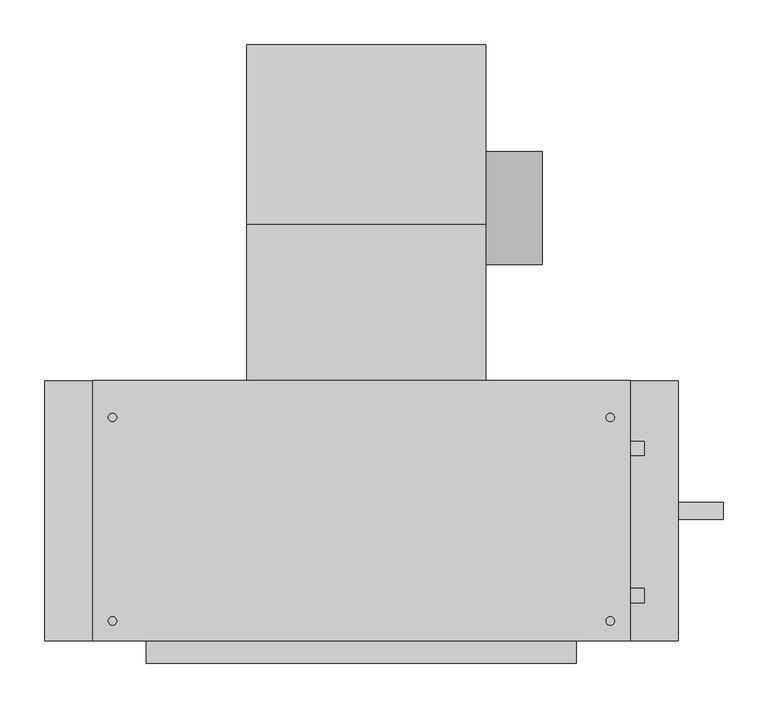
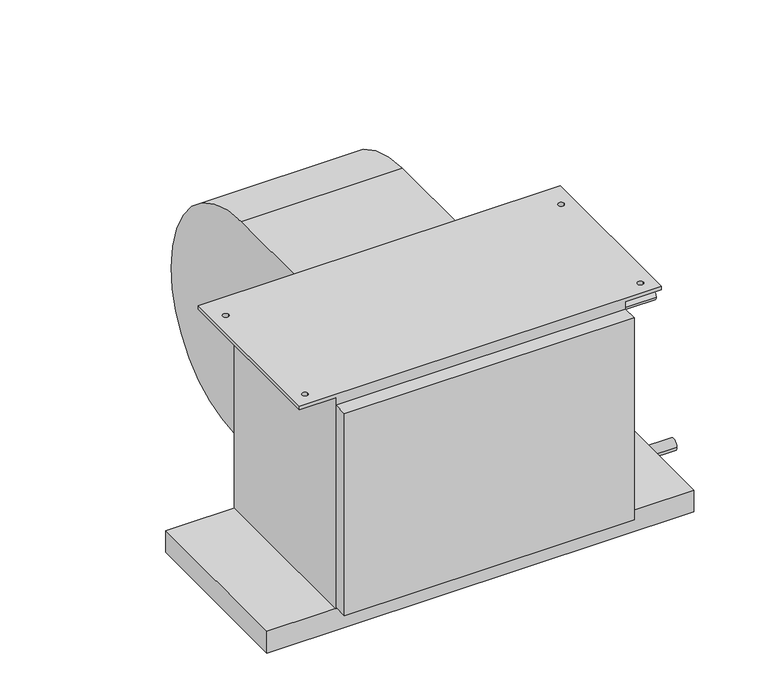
"""IFC4 building model written with IfcOpenShell, lengths in millimetres: proxy geometry, Concealed_High_Capacity_Horizontal_Fan_Coil_Unit_-_42DAA_-_CARRIER_-_2-Pipe_Cool-EHeat_RH_2022 : Size 08 - 277v/60Hz/1Ph - 6 Row 6.0kW."""

from ifc_helpers import new_model, si_unit, point, frame, frame_2d, origin, place, context, project, spatial, polyline, circle_curve, trimmed, segment, composite_curve, outline, extrude, source, transform, mapped, element, save
from ifc_brep_helpers import plane_surface, cylinder_surface, revolved_surface, advanced_brep


def mechanical_equipment_7bd75dd6(model_context):
    return source(origin(), model_context, "Body", "SolidModel", [
        extrude(outline(composite_curve([segment(trimmed(circle_curve(frame_2d((102.0007598, -206.8897468)), 63.5), [point((165.5007598, -206.8897468))], [point((38.5007598, -206.8897468))], False, "CARTESIAN"), True, "CONTINUOUS"), segment(trimmed(circle_curve(frame_2d((102.0007598, -206.8897468)), 63.5), [point((38.5007598, -206.8897468))], [point((165.5007598, -206.8897468))], False, "CARTESIAN"), True, "CONTINUOUS")], self_intersect=False)), frame((292.1, 0.0, 0.0), z_axis=(1.0, 0.0, 0.0), x_axis=(0.0, 1.0, 0.0)), (0.0, 0.0, 1.0), 63.5),
        advanced_brep(
        [(23.876, 285.5155957, -222.029602), (23.876, 104.6226, -403.64664), (23.876, -50.9016, -277.10638), (23.876, -92.075, -277.10638), (23.876, -92.075, -19.05), (23.876, 83.0080093, -19.05), (292.1, 285.5155957, -222.029602), (292.1, 83.0080093, -19.05), (292.1, -92.075, -19.05), (292.1, -92.075, -277.10638), (292.1, -50.9016, -277.10638), (292.1, 104.622599, -403.6457839)],
        [
            (0, 1, circle_curve(frame((23.876, 104.44226, -222.57258), z_axis=(-1.0, 0.0, 0.0), x_axis=(0.0, -1.0, 0.0)), 181.0741498)),
            (1, 2, circle_curve(frame((23.876, 104.44226, -245.02364), z_axis=(-1.0, 0.0, 0.0), x_axis=(0.0, -1.0, 0.0)), 158.6222464)),
            (2, 3),
            (3, 4),
            (4, 5),
            (5, 0, circle_curve(frame((23.876, 81.9912, -222.57258), z_axis=(-1.0, 0.0, 0.0), x_axis=(0.0, -1.0, 0.0)), 203.52512)),
            (6, 7, circle_curve(frame((292.1, 81.9912, -222.57258), z_axis=(1.0, 0.0, 0.0), x_axis=(0.0, -1.0, 0.0)), 203.52512)),
            (7, 8),
            (8, 9),
            (9, 10),
            (10, 11, circle_curve(frame((292.1, 104.44226, -245.02364), z_axis=(1.0, 0.0, 0.0), x_axis=(0.0, -1.0, 0.0)), 158.6222464)),
            (11, 6, circle_curve(frame((292.1, 104.44226, -222.57258), z_axis=(1.0, 0.0, 0.0), x_axis=(0.0, -1.0, 0.0)), 181.0741498)),
            (0, 6),
            (11, 1),
            (10, 2),
            (9, 3),
            (8, 4),
            (7, 5),
        ],
        [
            plane_surface(frame((23.876, -76.6318898, -222.57258), z_axis=(-1.0, 0.0, 0.0), x_axis=(0.0, 0.0, 1.0))),
            plane_surface(frame((292.1, -76.6318898, -222.57258), z_axis=(1.0, 0.0, 0.0), x_axis=(0.0, 0.0, -1.0))),
            cylinder_surface(frame((292.1, 104.44226, -222.57258), z_axis=(-1.0, 0.0, 0.0), x_axis=(0.0, -1.0, 0.0)), 181.0741498),
            cylinder_surface(frame((292.1, 104.44226, -245.02364), z_axis=(-1.0, 0.0, 0.0), x_axis=(0.0, -1.0, 0.0)), 158.6222464),
            plane_surface(frame((23.876, -50.9016, -277.10638), z_axis=(0.0, 0.0, -1.0), x_axis=(1.0, 0.0, 0.0))),
            plane_surface(frame((23.876, -92.075, -277.10638), z_axis=(0.0, -1.0, 0.0), x_axis=(1.0, 0.0, 0.0))),
            plane_surface(frame((23.876, -92.075, -19.05), z_axis=(0.0, 0.0, 1.0), x_axis=(1.0, 0.0, 0.0))),
            cylinder_surface(frame((292.1, 81.9912, -222.57258), z_axis=(-1.0, 0.0, 0.0), x_axis=(0.0, -1.0, 0.0)), 203.52512),
        ],
        [
            (0, [[1, 2, 3, 4, 5, 6]]),
            (1, [[7, 8, 9, 10, 11, 12]]),
            (2, [[-1, 13, -12, 14]]),
            (3, [[-2, -14, -11, 15]]),
            (4, [[-3, -15, -10, 16]]),
            (5, [[-4, -16, -9, 17]]),
            (6, [[-5, -17, -8, 18]]),
            (7, [[-6, -18, -7, -13]]),
        ],
    ),
        advanced_brep(
        [(393.7, -92.075, -377.825), (393.7, -384.175, -377.825), (-88.9, -384.175, -377.825), (-88.9, -92.075, -377.825), (-88.9, -384.175, -6.35), (-88.9, -92.075, -6.35), (393.7, -92.075, -6.35), (393.7, -384.175, -6.35), (454.025, -92.075, -6.35), (454.025, -384.175, -6.35), (427.0375, -133.35, -6.35), (436.5625, -133.35, -6.35), (427.0375, -361.95, -6.35), (436.5625, -361.95, -6.35), (-149.225, -92.075, -6.35), (-149.225, -384.175, -6.35), (-131.7625, -133.35, -6.35), (-122.2375, -133.35, -6.35), (-131.7625, -361.95, -6.35), (-122.2375, -361.95, -6.35), (454.025, -384.175, 0.0), (454.025, -92.075, 0.0), (-149.225, -92.075, 0.0), (-149.225, -384.175, 0.0), (-122.2375, -133.35, 0.0), (-131.7625, -133.35, 0.0), (-122.2375, -361.95, 0.0), (-131.7625, -361.95, 0.0), (436.5625, -133.35, 0.0), (427.0375, -133.35, 0.0), (436.5625, -361.95, 0.0), (427.0375, -361.95, 0.0)],
        [
            (0, 1),
            (1, 2),
            (2, 3),
            (3, 0),
            (2, 4),
            (4, 5),
            (5, 3),
            (0, 6),
            (6, 7),
            (7, 1),
            (8, 9),
            (9, 7),
            (6, 8),
            (10, 11, circle_curve(frame((431.8, -133.35, -6.35), z_axis=(0.0, 0.0, 1.0), x_axis=(1.0, 0.0, 0.0)), 4.7625)),
            (11, 10, circle_curve(frame((431.8, -133.35, -6.35), z_axis=(0.0, 0.0, 1.0), x_axis=(1.0, 0.0, 0.0)), 4.7625)),
            (12, 13, circle_curve(frame((431.8, -361.95, -6.35), z_axis=(0.0, 0.0, 1.0), x_axis=(1.0, 0.0, 0.0)), 4.7625)),
            (13, 12, circle_curve(frame((431.8, -361.95, -6.35), z_axis=(0.0, 0.0, 1.0), x_axis=(1.0, 0.0, 0.0)), 4.7625)),
            (14, 5),
            (4, 15),
            (15, 14),
            (16, 17, circle_curve(frame((-127.0, -133.35, -6.35), z_axis=(0.0, 0.0, 1.0), x_axis=(1.0, 0.0, 0.0)), 4.7625)),
            (17, 16, circle_curve(frame((-127.0, -133.35, -6.35), z_axis=(0.0, 0.0, 1.0), x_axis=(1.0, 0.0, 0.0)), 4.7625)),
            (18, 19, circle_curve(frame((-127.0, -361.95, -6.35), z_axis=(0.0, 0.0, 1.0), x_axis=(1.0, 0.0, 0.0)), 4.7625)),
            (19, 18, circle_curve(frame((-127.0, -361.95, -6.35), z_axis=(0.0, 0.0, 1.0), x_axis=(1.0, 0.0, 0.0)), 4.7625)),
            (20, 21),
            (21, 22),
            (22, 23),
            (23, 20),
            (24, 25, circle_curve(frame((-127.0, -133.35, 0.0), z_axis=(0.0, 0.0, -1.0), x_axis=(1.0, 0.0, 0.0)), 4.7625)),
            (25, 24, circle_curve(frame((-127.0, -133.35, 0.0), z_axis=(0.0, 0.0, -1.0), x_axis=(1.0, 0.0, 0.0)), 4.7625)),
            (26, 27, circle_curve(frame((-127.0, -361.95, 0.0), z_axis=(0.0, 0.0, -1.0), x_axis=(1.0, 0.0, 0.0)), 4.7625)),
            (27, 26, circle_curve(frame((-127.0, -361.95, 0.0), z_axis=(0.0, 0.0, -1.0), x_axis=(1.0, 0.0, 0.0)), 4.7625)),
            (28, 29, circle_curve(frame((431.8, -133.35, 0.0), z_axis=(0.0, 0.0, -1.0), x_axis=(1.0, 0.0, 0.0)), 4.7625)),
            (29, 28, circle_curve(frame((431.8, -133.35, 0.0), z_axis=(0.0, 0.0, -1.0), x_axis=(1.0, 0.0, 0.0)), 4.7625)),
            (30, 31, circle_curve(frame((431.8, -361.95, 0.0), z_axis=(0.0, 0.0, -1.0), x_axis=(1.0, 0.0, 0.0)), 4.7625)),
            (31, 30, circle_curve(frame((431.8, -361.95, 0.0), z_axis=(0.0, 0.0, -1.0), x_axis=(1.0, 0.0, 0.0)), 4.7625)),
            (14, 22),
            (21, 8),
            (9, 20),
            (23, 15),
            (24, 17),
            (16, 25),
            (26, 19),
            (18, 27),
            (28, 11),
            (10, 29),
            (30, 13),
            (12, 31),
        ],
        [
            plane_surface(frame((-88.9, -92.075, -377.825), z_axis=(0.0, 0.0, -1.0), x_axis=(1.0, 0.0, 0.0))),
            plane_surface(frame((-88.9, -92.075, 0.0), z_axis=(-1.0, 0.0, 0.0), x_axis=(0.0, 0.0, -1.0))),
            plane_surface(frame((393.7, -384.175, 0.0), z_axis=(1.0, 0.0, 0.0), x_axis=(0.0, 0.0, -1.0))),
            plane_surface(frame((393.7, -92.075, -6.35), z_axis=(0.0, 0.0, -1.0), x_axis=(1.0, 0.0, 0.0))),
            plane_surface(frame((393.7, -92.075, 0.0), z_axis=(0.0, 0.0, 1.0), x_axis=(-1.0, 0.0, 0.0))),
            plane_surface(frame((454.025, -92.075, 0.0), z_axis=(0.0, 1.0, 0.0), x_axis=(0.0, 0.0, -1.0))),
            plane_surface(frame((393.7, -384.175, 0.0), z_axis=(0.0, -1.0, 0.0), x_axis=(0.0, 0.0, -1.0))),
            plane_surface(frame((454.025, -384.175, 0.0), z_axis=(1.0, 0.0, 0.0), x_axis=(0.0, 0.0, -1.0))),
            plane_surface(frame((-149.225, -92.075, 0.0), z_axis=(-1.0, 0.0, 0.0), x_axis=(0.0, 0.0, -1.0))),
            revolved_surface(polyline([(-122.2375, -133.35, 0.0), (-122.2375, -133.35, -6.35)]), (-127.0, -133.35, -6.35), (0.0, 0.0, 1.0)),
            revolved_surface(polyline([(-122.2375, -361.95, 0.0), (-122.2375, -361.95, -6.35)]), (-127.0, -361.95, 0.0), (0.0, 0.0, 1.0)),
            revolved_surface(polyline([(436.5625, -133.35, 0.0), (436.5625, -133.35, -6.35)]), (431.8, -133.35, 0.0), (0.0, 0.0, 1.0)),
            revolved_surface(polyline([(436.5625, -361.95, 0.0), (436.5625, -361.95, -6.35)]), (431.8, -361.95, 0.0), (0.0, 0.0, 1.0)),
        ],
        [
            (0, [[1, 2, 3, 4]]),
            (1, [[-3, 5, 6, 7]]),
            (2, [[-1, 8, 9, 10]]),
            (3, [[11, 12, -9, 13], [14, 15], [16, 17]]),
            (3, [[18, -6, 19, 20], [21, 22], [23, 24]]),
            (4, [[25, 26, 27, 28], [29, 30], [31, 32], [33, 34], [35, 36]]),
            (5, [[-13, -8, -4, -7, -18, 37, -26, 38]]),
            (6, [[-12, 39, -28, 40, -19, -5, -2, -10]]),
            (7, [[-11, -38, -25, -39]]),
            (8, [[-20, -40, -27, -37]]),
            (9, [[41, -21, 42, -29]]),
            (9, [[-41, -30, -42, -22]]),
            (10, [[43, -23, 44, -31]]),
            (10, [[-43, -32, -44, -24]]),
            (11, [[45, -14, 46, -33]]),
            (11, [[-45, -34, -46, -15]]),
            (12, [[47, -16, 48, -35]]),
            (12, [[-47, -36, -48, -17]]),
        ],
    ),
        extrude(outline(composite_curve([segment(trimmed(circle_curve(frame_2d((-238.125, -403.225)), 9.525), [point((-228.6, -403.225))], [point((-247.65, -403.225))], False, "CARTESIAN"), True, "CONTINUOUS"), segment(trimmed(circle_curve(frame_2d((-238.125, -403.225)), 9.525), [point((-247.65, -403.225))], [point((-228.6, -403.225))], False, "CARTESIAN"), True, "CONTINUOUS")], self_intersect=False)), frame((508.0, 0.0, 0.0), z_axis=(1.0, 0.0, 0.0), x_axis=(0.0, 1.0, 0.0)), (0.0, 0.0, 1.0), 50.8),
        extrude(outline(composite_curve([segment(trimmed(circle_curve(frame_2d((-333.375, -50.8)), 7.9375), [point((-325.4375, -50.8))], [point((-341.3125, -50.8))], False, "CARTESIAN"), True, "CONTINUOUS"), segment(trimmed(circle_curve(frame_2d((-333.375, -50.8)), 7.9375), [point((-341.3125, -50.8))], [point((-325.4375, -50.8))], False, "CARTESIAN"), True, "CONTINUOUS")], self_intersect=False)), frame((393.7, 0.0, 0.0), z_axis=(1.0, 0.0, 0.0), x_axis=(0.0, 1.0, 0.0)), (0.0, 0.0, 1.0), 76.2),
        extrude(outline(composite_curve([segment(trimmed(circle_curve(frame_2d((-168.275, -327.025)), 7.9375), [point((-160.3375, -327.025))], [point((-176.2125, -327.025))], False, "CARTESIAN"), True, "CONTINUOUS"), segment(trimmed(circle_curve(frame_2d((-168.275, -327.025)), 7.9375), [point((-176.2125, -327.025))], [point((-160.3375, -327.025))], False, "CARTESIAN"), True, "CONTINUOUS")], self_intersect=False)), frame((393.7, 0.0, 0.0), z_axis=(1.0, 0.0, 0.0), x_axis=(0.0, 1.0, 0.0)), (0.0, 0.0, 1.0), 76.2),
        extrude(outline(polyline([(393.7, -409.575), (-88.9, -409.575), (-88.9, -384.175), (393.7, -384.175), (393.7, -409.575)])), frame((0.0, 0.0, -374.65), z_axis=(0.0, 0.0, 1.0), x_axis=(1.0, 0.0, 0.0)), (0.0, 0.0, 1.0), 355.6),
        extrude(outline(polyline([(508.0, -92.075), (508.0, -384.175), (-203.2, -384.175), (-203.2, -92.075), (508.0, -92.075)])), frame((0.0, 0.0, -415.925), z_axis=(0.0, 0.0, 1.0), x_axis=(1.0, 0.0, 0.0)), (0.0, 0.0, 1.0), 38.1),
    ])


if __name__ == "__main__":
    model = new_model("IFC4")
    model_context = context("Model", 3, world=origin())
    ifc_project = project(units=[si_unit("LENGTHUNIT", "METRE", prefix="MILLI")], contexts=[model_context])
    site = spatial("IfcSite", under=ifc_project)
    building = spatial("IfcBuilding", under=site)
    placement = place(None, origin())
    mechanical_equipment_shape = mechanical_equipment_7bd75dd6(model_context)
    element("IfcBuildingElementProxy", 1, Name="Concealed_High_Capacity_Horizontal_Fan_Coil_Unit_-_42DAA_-_CARRIER_-_2-Pipe_Cool-EHeat_RH_2022 : Size 08 - 277v/60Hz/1Ph - 6 Row 6.0kW", ObjectType="Concealed_High_Capacity_Horizontal_Fan_Coil_Unit_-_42DAA_-_CARRIER_-_2-Pipe_Cool-EHeat_RH_2022 : Size 08 - 277v/60Hz/1Ph - 6 Row 6.0kW", at=placement, inside=building, context=model_context, shape_type="MappedRepresentation", body=[
        mapped(mechanical_equipment_shape, transform((0.0, 0.0, 0.0), x_axis=(1.0, 0.0, 0.0), y_axis=(0.0, 1.0, 0.0), z_axis=(0.0, 0.0, 1.0))),
    ])
    save(model, "model.ifc")
